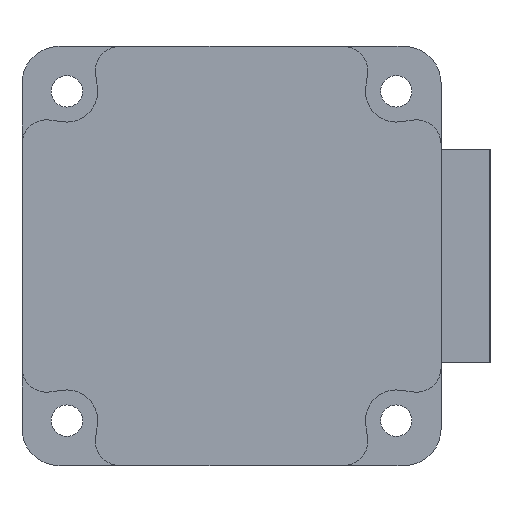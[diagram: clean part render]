
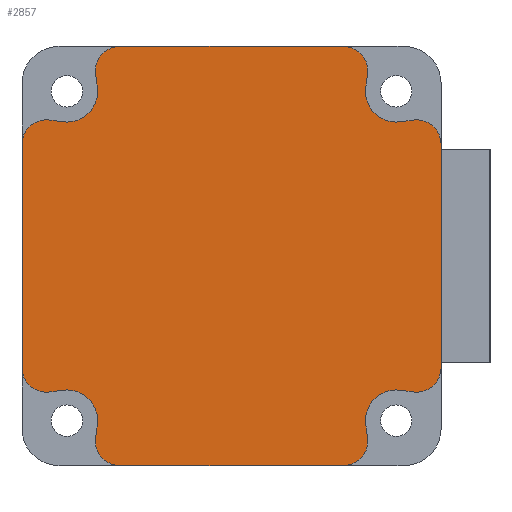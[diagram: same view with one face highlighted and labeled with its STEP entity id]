
A CAD part, left-side view. The second image highlights one B-rep face of the part: STEP entity #2857.
In plain terms, the highlighted planar face has unit normal (-1, 0, 0).
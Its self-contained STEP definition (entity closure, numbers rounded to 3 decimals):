
#56=PLANE('',#3099);
#234=LINE('',#4580,#506);
#235=LINE('',#4584,#507);
#236=LINE('',#4588,#508);
#237=LINE('',#4592,#509);
#238=LINE('',#4596,#510);
#239=LINE('',#4600,#511);
#240=LINE('',#4604,#512);
#241=LINE('',#4608,#513);
#242=LINE('',#4612,#514);
#243=LINE('',#4616,#515);
#244=LINE('',#4620,#516);
#245=LINE('',#4624,#517);
#506=VECTOR('',#3693,1000.);
#507=VECTOR('',#3696,1000.);
#508=VECTOR('',#3699,1000.);
#509=VECTOR('',#3702,1000.);
#510=VECTOR('',#3705,1000.);
#511=VECTOR('',#3708,1000.);
#512=VECTOR('',#3711,1000.);
#513=VECTOR('',#3714,1000.);
#514=VECTOR('',#3717,1000.);
#515=VECTOR('',#3720,1000.);
#516=VECTOR('',#3723,1000.);
#517=VECTOR('',#3726,1000.);
#1044=ORIENTED_EDGE('',*,*,#1701,.F.);
#1045=ORIENTED_EDGE('',*,*,#1702,.F.);
#1046=ORIENTED_EDGE('',*,*,#1703,.T.);
#1047=ORIENTED_EDGE('',*,*,#1704,.F.);
#1048=ORIENTED_EDGE('',*,*,#1705,.F.);
#1049=ORIENTED_EDGE('',*,*,#1706,.F.);
#1050=ORIENTED_EDGE('',*,*,#1707,.F.);
#1051=ORIENTED_EDGE('',*,*,#1708,.F.);
#1052=ORIENTED_EDGE('',*,*,#1709,.T.);
#1053=ORIENTED_EDGE('',*,*,#1710,.F.);
#1054=ORIENTED_EDGE('',*,*,#1711,.F.);
#1055=ORIENTED_EDGE('',*,*,#1712,.F.);
#1056=ORIENTED_EDGE('',*,*,#1713,.F.);
#1057=ORIENTED_EDGE('',*,*,#1714,.F.);
#1058=ORIENTED_EDGE('',*,*,#1715,.T.);
#1059=ORIENTED_EDGE('',*,*,#1716,.F.);
#1060=ORIENTED_EDGE('',*,*,#1717,.F.);
#1061=ORIENTED_EDGE('',*,*,#1718,.F.);
#1062=ORIENTED_EDGE('',*,*,#1719,.F.);
#1063=ORIENTED_EDGE('',*,*,#1720,.F.);
#1064=ORIENTED_EDGE('',*,*,#1721,.T.);
#1065=ORIENTED_EDGE('',*,*,#1722,.F.);
#1066=ORIENTED_EDGE('',*,*,#1723,.F.);
#1067=ORIENTED_EDGE('',*,*,#1724,.F.);
#1701=EDGE_CURVE('',#2064,#2065,#2277,.T.);
#1702=EDGE_CURVE('',#2066,#2064,#234,.T.);
#1703=EDGE_CURVE('',#2066,#2067,#2278,.T.);
#1704=EDGE_CURVE('',#2068,#2067,#235,.T.);
#1705=EDGE_CURVE('',#2069,#2068,#2279,.T.);
#1706=EDGE_CURVE('',#2070,#2069,#236,.T.);
#1707=EDGE_CURVE('',#2071,#2070,#2280,.T.);
#1708=EDGE_CURVE('',#2072,#2071,#237,.T.);
#1709=EDGE_CURVE('',#2072,#2073,#2281,.T.);
#1710=EDGE_CURVE('',#2074,#2073,#238,.T.);
#1711=EDGE_CURVE('',#2075,#2074,#2282,.T.);
#1712=EDGE_CURVE('',#2076,#2075,#239,.T.);
#1713=EDGE_CURVE('',#2077,#2076,#2283,.T.);
#1714=EDGE_CURVE('',#2078,#2077,#240,.T.);
#1715=EDGE_CURVE('',#2078,#2079,#2284,.T.);
#1716=EDGE_CURVE('',#2080,#2079,#241,.T.);
#1717=EDGE_CURVE('',#2081,#2080,#2285,.T.);
#1718=EDGE_CURVE('',#2082,#2081,#242,.T.);
#1719=EDGE_CURVE('',#2083,#2082,#2286,.T.);
#1720=EDGE_CURVE('',#2084,#2083,#243,.T.);
#1721=EDGE_CURVE('',#2084,#2085,#2287,.T.);
#1722=EDGE_CURVE('',#2086,#2085,#244,.T.);
#1723=EDGE_CURVE('',#2087,#2086,#2288,.T.);
#1724=EDGE_CURVE('',#2065,#2087,#245,.T.);
#2064=VERTEX_POINT('',#4578);
#2065=VERTEX_POINT('',#4579);
#2066=VERTEX_POINT('',#4581);
#2067=VERTEX_POINT('',#4583);
#2068=VERTEX_POINT('',#4585);
#2069=VERTEX_POINT('',#4587);
#2070=VERTEX_POINT('',#4589);
#2071=VERTEX_POINT('',#4591);
#2072=VERTEX_POINT('',#4593);
#2073=VERTEX_POINT('',#4595);
#2074=VERTEX_POINT('',#4597);
#2075=VERTEX_POINT('',#4599);
#2076=VERTEX_POINT('',#4601);
#2077=VERTEX_POINT('',#4603);
#2078=VERTEX_POINT('',#4605);
#2079=VERTEX_POINT('',#4607);
#2080=VERTEX_POINT('',#4609);
#2081=VERTEX_POINT('',#4611);
#2082=VERTEX_POINT('',#4613);
#2083=VERTEX_POINT('',#4615);
#2084=VERTEX_POINT('',#4617);
#2085=VERTEX_POINT('',#4619);
#2086=VERTEX_POINT('',#4621);
#2087=VERTEX_POINT('',#4623);
#2277=CIRCLE('',#3100,3.5);
#2278=CIRCLE('',#3101,4.4);
#2279=CIRCLE('',#3102,3.5);
#2280=CIRCLE('',#3103,3.5);
#2281=CIRCLE('',#3104,4.4);
#2282=CIRCLE('',#3105,3.5);
#2283=CIRCLE('',#3106,3.5);
#2284=CIRCLE('',#3107,4.4);
#2285=CIRCLE('',#3108,3.5);
#2286=CIRCLE('',#3109,3.5);
#2287=CIRCLE('',#3110,4.4);
#2288=CIRCLE('',#3111,3.5);
#2433=EDGE_LOOP('',(#1044,#1045,#1046,#1047,#1048,#1049,#1050,#1051,#1052,
#1053,#1054,#1055,#1056,#1057,#1058,#1059,#1060,#1061,#1062,#1063,#1064,
#1065,#1066,#1067));
#2617=FACE_BOUND('',#2433,.T.);
#2857=ADVANCED_FACE('',(#2617),#56,.F.);
#3099=AXIS2_PLACEMENT_3D('',#4576,#3689,#3690);
#3100=AXIS2_PLACEMENT_3D('',#4577,#3691,#3692);
#3101=AXIS2_PLACEMENT_3D('',#4582,#3694,#3695);
#3102=AXIS2_PLACEMENT_3D('',#4586,#3697,#3698);
#3103=AXIS2_PLACEMENT_3D('',#4590,#3700,#3701);
#3104=AXIS2_PLACEMENT_3D('',#4594,#3703,#3704);
#3105=AXIS2_PLACEMENT_3D('',#4598,#3706,#3707);
#3106=AXIS2_PLACEMENT_3D('',#4602,#3709,#3710);
#3107=AXIS2_PLACEMENT_3D('',#4606,#3712,#3713);
#3108=AXIS2_PLACEMENT_3D('',#4610,#3715,#3716);
#3109=AXIS2_PLACEMENT_3D('',#4614,#3718,#3719);
#3110=AXIS2_PLACEMENT_3D('',#4618,#3721,#3722);
#3111=AXIS2_PLACEMENT_3D('',#4622,#3724,#3725);
#3689=DIRECTION('',(1.,0.,0.));
#3690=DIRECTION('',(0.,0.,-1.));
#3691=DIRECTION('',(1.,0.,0.));
#3692=DIRECTION('',(0.,0.,-1.));
#3693=DIRECTION('',(0.,0.137,0.991));
#3694=DIRECTION('',(1.,0.,0.));
#3695=DIRECTION('',(0.,0.,-1.));
#3696=DIRECTION('',(0.,-0.991,-0.137));
#3697=DIRECTION('',(1.,0.,0.));
#3698=DIRECTION('',(0.,0.,-1.));
#3699=DIRECTION('',(0.,0.,1.));
#3700=DIRECTION('',(1.,0.,0.));
#3701=DIRECTION('',(0.,0.,-1.));
#3702=DIRECTION('',(0.,0.991,-0.137));
#3703=DIRECTION('',(1.,0.,0.));
#3704=DIRECTION('',(0.,0.,-1.));
#3705=DIRECTION('',(0.,-0.137,0.991));
#3706=DIRECTION('',(1.,0.,0.));
#3707=DIRECTION('',(0.,0.,-1.));
#3708=DIRECTION('',(0.,1.,0.));
#3709=DIRECTION('',(1.,0.,0.));
#3710=DIRECTION('',(0.,0.,-1.));
#3711=DIRECTION('',(0.,-0.137,-0.991));
#3712=DIRECTION('',(1.,0.,0.));
#3713=DIRECTION('',(0.,0.,-1.));
#3714=DIRECTION('',(0.,0.991,0.137));
#3715=DIRECTION('',(1.,0.,0.));
#3716=DIRECTION('',(0.,0.,-1.));
#3717=DIRECTION('',(0.,0.,-1.));
#3718=DIRECTION('',(1.,0.,0.));
#3719=DIRECTION('',(0.,0.,-1.));
#3720=DIRECTION('',(0.,-0.991,0.137));
#3721=DIRECTION('',(1.,0.,0.));
#3722=DIRECTION('',(0.,0.,-1.));
#3723=DIRECTION('',(0.,0.137,-0.991));
#3724=DIRECTION('',(1.,0.,0.));
#3725=DIRECTION('',(0.,0.,-1.));
#3726=DIRECTION('',(0.,-1.,0.));
#4576=CARTESIAN_POINT('',(-65.,-24.7,24.7));
#4577=CARTESIAN_POINT('',(-65.,16.,26.5));
#4578=CARTESIAN_POINT('',(-65.,19.467,26.021));
#4579=CARTESIAN_POINT('',(-65.,16.,30.));
#4580=CARTESIAN_POINT('',(-65.,18.459,18.732));
#4581=CARTESIAN_POINT('',(-65.,19.211,24.173));
#4582=CARTESIAN_POINT('',(-65.,23.57,23.57));
#4583=CARTESIAN_POINT('',(-65.,24.173,19.211));
#4584=CARTESIAN_POINT('',(-65.,-23.038,12.683));
#4585=CARTESIAN_POINT('',(-65.,26.021,19.467));
#4586=CARTESIAN_POINT('',(-65.,26.5,16.));
#4587=CARTESIAN_POINT('',(-65.,30.,16.));
#4588=CARTESIAN_POINT('',(-65.,30.,-24.7));
#4589=CARTESIAN_POINT('',(-65.,30.,-16.));
#4590=CARTESIAN_POINT('',(-65.,26.5,-16.));
#4591=CARTESIAN_POINT('',(-65.,26.021,-19.467));
#4592=CARTESIAN_POINT('',(-65.,-29.741,-11.756));
#4593=CARTESIAN_POINT('',(-65.,24.173,-19.211));
#4594=CARTESIAN_POINT('',(-65.,23.57,-23.57));
#4595=CARTESIAN_POINT('',(-65.,19.211,-24.173));
#4596=CARTESIAN_POINT('',(-65.,11.756,29.741));
#4597=CARTESIAN_POINT('',(-65.,19.467,-26.021));
#4598=CARTESIAN_POINT('',(-65.,16.,-26.5));
#4599=CARTESIAN_POINT('',(-65.,16.,-30.));
#4600=CARTESIAN_POINT('',(-65.,-24.7,-30.));
#4601=CARTESIAN_POINT('',(-65.,-16.,-30.));
#4602=CARTESIAN_POINT('',(-65.,-16.,-26.5));
#4603=CARTESIAN_POINT('',(-65.,-19.467,-26.021));
#4604=CARTESIAN_POINT('',(-65.,-12.683,23.038));
#4605=CARTESIAN_POINT('',(-65.,-19.211,-24.173));
#4606=CARTESIAN_POINT('',(-65.,-23.57,-23.57));
#4607=CARTESIAN_POINT('',(-65.,-24.173,-19.211));
#4608=CARTESIAN_POINT('',(-65.,-18.732,-18.459));
#4609=CARTESIAN_POINT('',(-65.,-26.021,-19.467));
#4610=CARTESIAN_POINT('',(-65.,-26.5,-16.));
#4611=CARTESIAN_POINT('',(-65.,-30.,-16.));
#4612=CARTESIAN_POINT('',(-65.,-30.,24.7));
#4613=CARTESIAN_POINT('',(-65.,-30.,16.));
#4614=CARTESIAN_POINT('',(-65.,-26.5,16.));
#4615=CARTESIAN_POINT('',(-65.,-26.021,19.467));
#4616=CARTESIAN_POINT('',(-65.,-25.435,19.386));
#4617=CARTESIAN_POINT('',(-65.,-24.173,19.211));
#4618=CARTESIAN_POINT('',(-65.,-23.57,23.57));
#4619=CARTESIAN_POINT('',(-65.,-19.211,24.173));
#4620=CARTESIAN_POINT('',(-65.,-19.386,25.435));
#4621=CARTESIAN_POINT('',(-65.,-19.467,26.021));
#4622=CARTESIAN_POINT('',(-65.,-16.,26.5));
#4623=CARTESIAN_POINT('',(-65.,-16.,30.));
#4624=CARTESIAN_POINT('',(-65.,24.7,30.));
